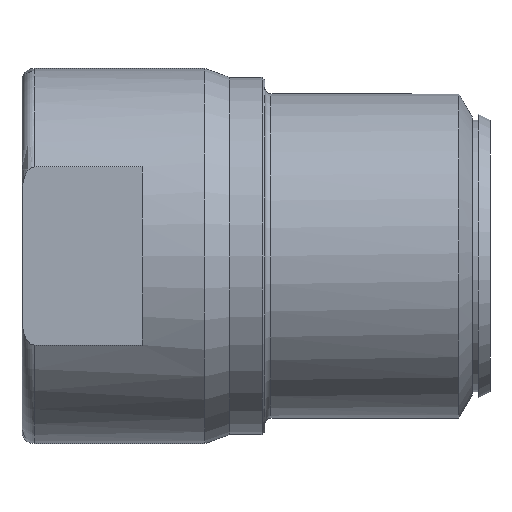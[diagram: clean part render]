
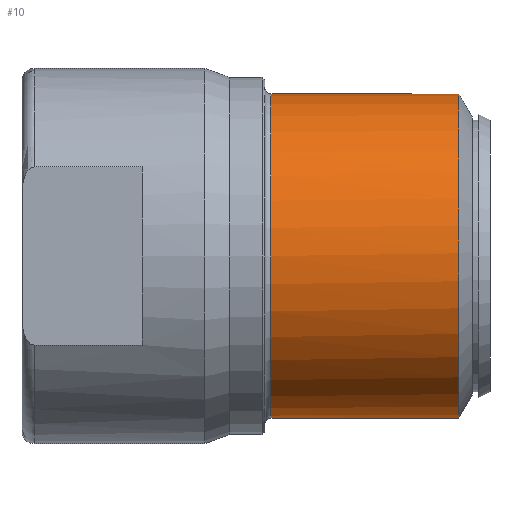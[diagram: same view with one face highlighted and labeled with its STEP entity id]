
A CAD part, front view. The second image highlights one B-rep face of the part: STEP entity #10.
In plain terms, the highlighted cylindrical face has radius 27 mm (diameter 54 mm), a partial arc.
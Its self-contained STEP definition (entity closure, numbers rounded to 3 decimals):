
#10 = ADVANCED_FACE ( 'NONE', ( #1083 ), #1079, .T. ) ;
#16 = EDGE_CURVE ( 'NONE', #1231, #1262, #680, .T. ) ;
#24 = EDGE_CURVE ( 'NONE', #1233, #1271, #647, .T. ) ;
#41 = EDGE_CURVE ( 'NONE', #1262, #1271, #473, .T. ) ;
#45 = EDGE_CURVE ( 'NONE', #1231, #1229, #485, .T. ) ;
#171 = AXIS2_PLACEMENT_3D ( 'NONE', #553, #554, #555 ) ;
#174 = CIRCLE ( 'NONE', #171, 27. ) ;
#196 = EDGE_CURVE ( 'NONE', #1229, #1233, #174, .T. ) ;
#242 = DIRECTION ( 'NONE',  ( 0., 0., -1. ) ) ;
#299 = EDGE_LOOP ( 'NONE', ( #1200, #1201, #1199, #1158, #1197 ) ) ;
#402 = CARTESIAN_POINT ( 'NONE',  ( -36.5, 0., 0. ) ) ;
#403 = DIRECTION ( 'NONE',  ( 1., 0., 0. ) ) ;
#404 = DIRECTION ( 'NONE',  ( 0., 0., -1. ) ) ;
#426 = CARTESIAN_POINT ( 'NONE',  ( -5.194, 0., 0. ) ) ;
#427 = DIRECTION ( 'NONE',  ( 1., 0., 0. ) ) ;
#428 = DIRECTION ( 'NONE',  ( 0., 0., 1. ) ) ;
#467 = CARTESIAN_POINT ( 'NONE',  ( 1.309, 0., -27. ) ) ;
#473 = LINE ( 'NONE', #467, #626 ) ;
#477 = DIRECTION ( 'NONE',  ( 1., 0., 0. ) ) ;
#481 = CARTESIAN_POINT ( 'NONE',  ( 1.309, 0., 27. ) ) ;
#485 = LINE ( 'NONE', #481, #623 ) ;
#489 = DIRECTION ( 'NONE',  ( 1., 0., 0. ) ) ;
#553 = CARTESIAN_POINT ( 'NONE',  ( -5.194, 0., 0. ) ) ;
#554 = DIRECTION ( 'NONE',  ( 1., 0., 0. ) ) ;
#555 = DIRECTION ( 'NONE',  ( 0., 0., 1. ) ) ;
#623 = VECTOR ( 'NONE', #489, 1000. ) ;
#626 = VECTOR ( 'NONE', #477, 1000. ) ;
#643 = AXIS2_PLACEMENT_3D ( 'NONE', #426, #427, #428 ) ;
#647 = CIRCLE ( 'NONE', #643, 27. ) ;
#667 = AXIS2_PLACEMENT_3D ( 'NONE', #1284, #1081, #242 ) ;
#680 = CIRCLE ( 'NONE', #687, 27. ) ;
#687 = AXIS2_PLACEMENT_3D ( 'NONE', #402, #403, #404 ) ;
#982 = CARTESIAN_POINT ( 'NONE',  ( -5.194, 0., 27. ) ) ;
#992 = CARTESIAN_POINT ( 'NONE',  ( -36.5, 0., 27. ) ) ;
#1001 = CARTESIAN_POINT ( 'NONE',  ( -5.194, -0.881, -26.986 ) ) ;
#1023 = CARTESIAN_POINT ( 'NONE',  ( -36.5, 0., -27. ) ) ;
#1027 = CARTESIAN_POINT ( 'NONE',  ( -5.194, 0., -27. ) ) ;
#1079 = CYLINDRICAL_SURFACE ( 'NONE', #667, 27. ) ;
#1081 = DIRECTION ( 'NONE',  ( 1., 0., 0. ) ) ;
#1083 = FACE_OUTER_BOUND ( 'NONE', #299, .T. ) ;
#1158 = ORIENTED_EDGE ( 'NONE', *, *, #24, .F. ) ;
#1197 = ORIENTED_EDGE ( 'NONE', *, *, #196, .F. ) ;
#1199 = ORIENTED_EDGE ( 'NONE', *, *, #41, .T. ) ;
#1200 = ORIENTED_EDGE ( 'NONE', *, *, #45, .F. ) ;
#1201 = ORIENTED_EDGE ( 'NONE', *, *, #16, .T. ) ;
#1229 = VERTEX_POINT ( 'NONE', #982 ) ;
#1231 = VERTEX_POINT ( 'NONE', #992 ) ;
#1233 = VERTEX_POINT ( 'NONE', #1001 ) ;
#1262 = VERTEX_POINT ( 'NONE', #1023 ) ;
#1271 = VERTEX_POINT ( 'NONE', #1027 ) ;
#1284 = CARTESIAN_POINT ( 'NONE',  ( 1.309, 0., 0. ) ) ;
